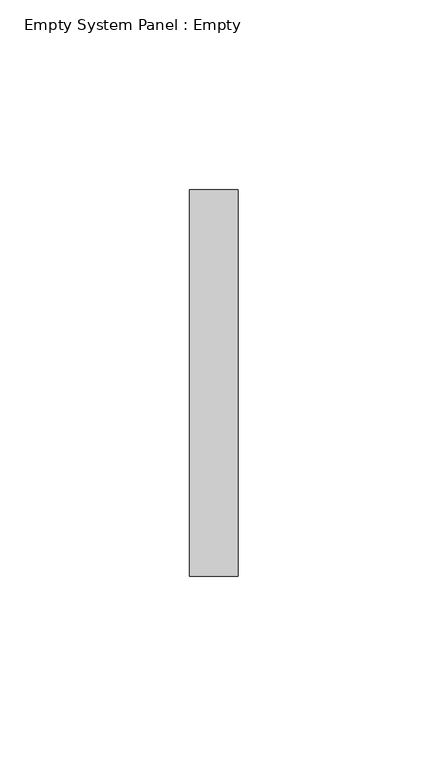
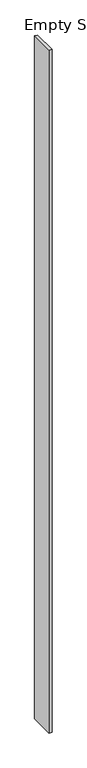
"""IFC4 building model written with IfcOpenShell, lengths in millimetres: plate geometry, Empty System Panel : Empty."""

from ifc_helpers import new_model, si_unit, frame, origin, place, context, project, spatial, polyline, outline, extrude, source, transform, mapped, element, save


def empty_system_panel_empty_399aeef9(model_context):
    return source(origin(), model_context, "Body", "SweptSolid", [
        extrude(outline(polyline([(0.0, -6.35), (0.0, 6.35), (2981.4164267, 6.35), (2982.8368985, -6.35), (0.0, -6.35)])), frame((0.0, -50.8, 0.0), z_axis=(0.0, 1.0, 0.0), x_axis=(0.0, 0.0, 1.0)), (0.0, 0.0, 1.0), 101.6),
    ])


if __name__ == "__main__":
    model = new_model("IFC4")
    model_context = context("Model", 3, world=origin())
    ifc_project = project(units=[si_unit("LENGTHUNIT", "METRE", prefix="MILLI")], contexts=[model_context])
    site = spatial("IfcSite", under=ifc_project)
    building = spatial("IfcBuilding", under=site)
    placement = place(None, origin())
    empty_system_panel_empty_shape = empty_system_panel_empty_399aeef9(model_context)
    element("IfcPlate", 1, ObjectType="Empty System Panel : Empty", at=placement, inside=building, context=model_context, shape_type="MappedRepresentation", body=[
        mapped(empty_system_panel_empty_shape, transform((0.0, 0.0, 0.0), x_axis=(1.0, 0.0, 0.0), y_axis=(0.0, 1.0, 0.0), z_axis=(0.0, 0.0, 1.0))),
    ])
    save(model, "model.ifc")
